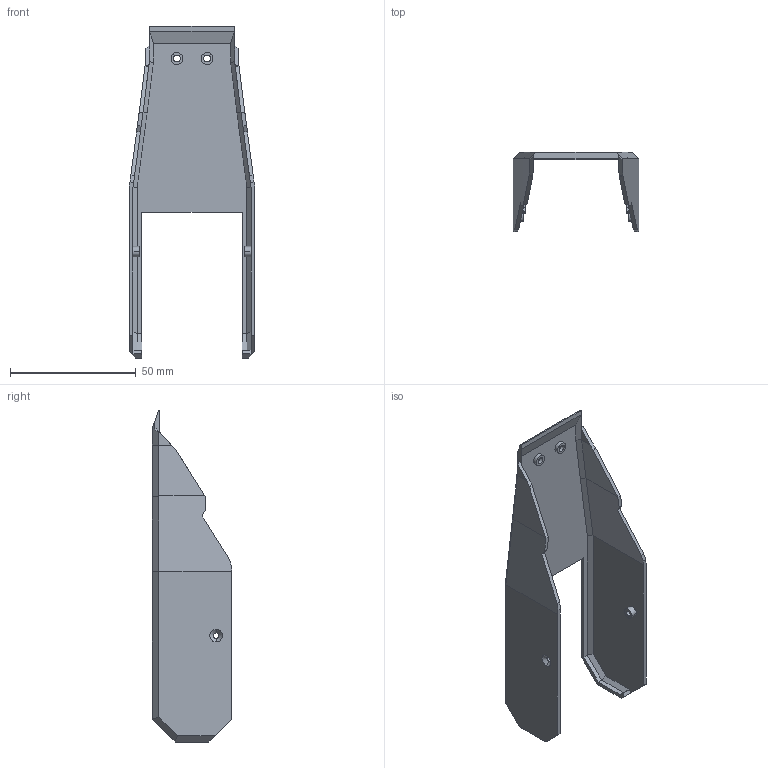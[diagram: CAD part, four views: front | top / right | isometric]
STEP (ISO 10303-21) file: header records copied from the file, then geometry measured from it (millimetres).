
FILE_DESCRIPTION((''),'2;1');
FILE_NAME('OP3_THIGH_CASE_VER1','2017-07-24T',('kimdolyang'),(''),'PRO/ENGINEER BY PARAMETRIC TECHNOLOGY CORPORATION, 2013410','PRO/ENGINEER BY PARAMETRIC TECHNOLOGY CORPORATION, 2013410','');
FILE_SCHEMA(('CONFIG_CONTROL_DESIGN'));
Length unit declared in the file: millimetre
Products named in the file (1): OP3_THIGH_CASE_VER1
Bounding box: 50 x 31.5 x 132.2 mm (x, y, z)
Volume: 14108.7 mm3; surface area: 19820.5 mm2
Topology: 1 solids, 1 shells, 115 faces, 303 edges, 194 vertices
Faces by surface type: plane 89, cylinder 18, cone 8
Entity records: 3551 total; most frequent: CARTESIAN_POINT 628, ORIENTED_EDGE 606, DIRECTION 573, EDGE_CURVE 303, VECTOR 255, LINE 255, VERTEX_POINT 194, AXIS2_PLACEMENT_3D 159
